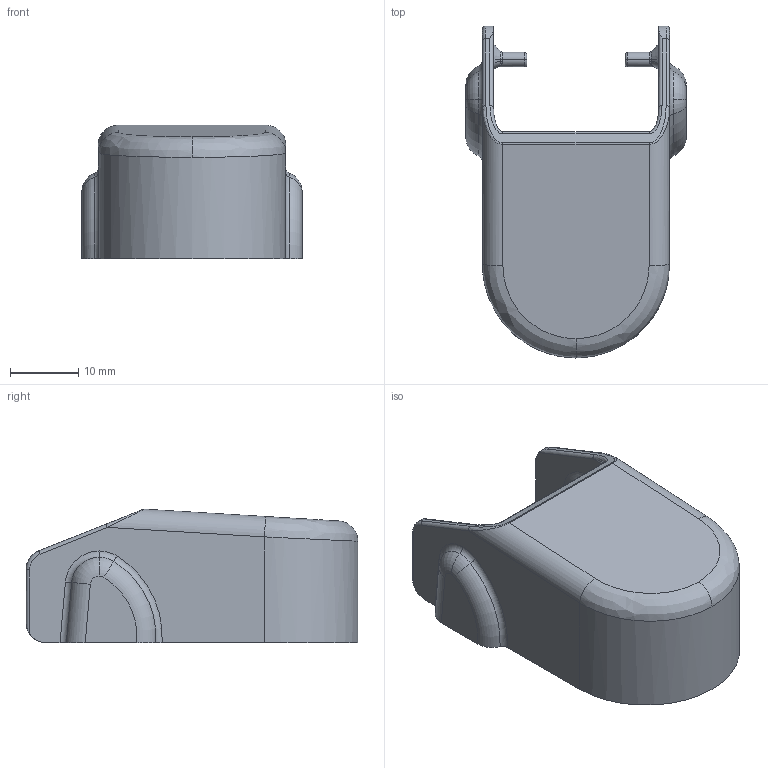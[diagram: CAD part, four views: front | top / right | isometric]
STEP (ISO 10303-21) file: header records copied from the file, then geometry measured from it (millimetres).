
FILE_DESCRIPTION (( 'STEP AP203' ), '1' );
FILE_NAME ('Kappe Scheibenwischer.STEP', '2022-05-28T12:31:00', ( '' ), ( '' ), 'SwSTEP 2.0', 'SolidWorks 2022', '' );
FILE_SCHEMA (( 'CONFIG_CONTROL_DESIGN' ));
Length unit declared in the file: millimetre
Products named in the file (1): Kappe Scheibenwischer
Bounding box: 32.4 x 48.8 x 19.64 mm (x, y, z)
Volume: 4526.1 mm3; surface area: 5894.9 mm2
Topology: 1 solids, 1 shells, 190 faces, 472 edges, 284 vertices
Faces by surface type: cylinder 72, torus 52, plane 36, bspline 24, cone 6
Entity records: 7143 total; most frequent: CARTESIAN_POINT 2731, ORIENTED_EDGE 944, DIRECTION 926, EDGE_CURVE 472, AXIS2_PLACEMENT_3D 379, VERTEX_POINT 284, CIRCLE 212, ADVANCED_FACE 190
